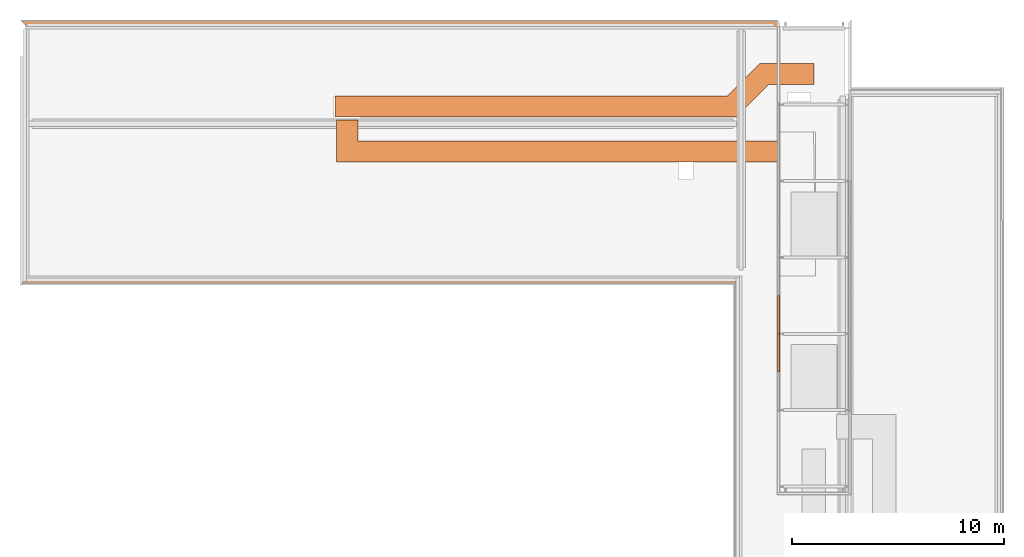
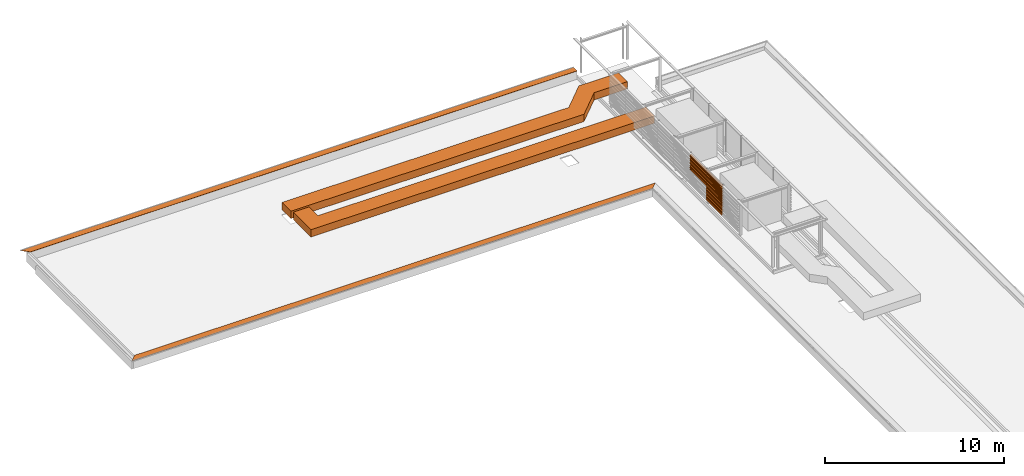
# One storey, part 23 of 32: 30 proxies.
"""IFC2X3 building model written with IfcOpenShell, lengths in millimetres."""

from ifc_helpers import new_model, entity, si_unit, converted_unit, derived_unit, direction, frame, origin, place, context, subcontext, project, spatial, polyline, outline, extrude, source, transform, mapped, material, type_object, type_shapes, element, save


model = new_model("IFC2X3")

# Units and contexts
model_context = context("Model", 3, precision=0.01, world=origin(), true_north=direction((6.123031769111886e-17, 1.0)))
body_context = subcontext(model_context, "Body", "Model", "MODEL_VIEW")
ifc_project = project(units=[si_unit("LENGTHUNIT", "METRE", prefix="MILLI"), si_unit("AREAUNIT", "SQUARE_METRE"), si_unit("VOLUMEUNIT", "CUBIC_METRE"), converted_unit("PLANEANGLEUNIT", "DEGREE", entity("IfcRatioMeasure", 0.017453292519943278), si_unit("PLANEANGLEUNIT", "RADIAN"), dimensions=[0, 0, 0, 0, 0, 0, 0]), si_unit("MASSUNIT", "GRAM", prefix="KILO"), derived_unit("MASSDENSITYUNIT", [(si_unit("MASSUNIT", "GRAM", prefix="KILO"), 1), (si_unit("LENGTHUNIT", "METRE"), -3)]), derived_unit("IONCONCENTRATIONUNIT", [(si_unit("MASSUNIT", "GRAM", prefix="KILO"), 1), (si_unit("LENGTHUNIT", "METRE"), -3)]), derived_unit("MOMENTOFINERTIAUNIT", [(si_unit("LENGTHUNIT", "METRE"), 4)]), si_unit("TIMEUNIT", "SECOND"), si_unit("FREQUENCYUNIT", "HERTZ"), si_unit("THERMODYNAMICTEMPERATUREUNIT", "DEGREE_CELSIUS"), derived_unit("THERMALTRANSMITTANCEUNIT", [(si_unit("MASSUNIT", "GRAM", prefix="KILO"), 1), (si_unit("THERMODYNAMICTEMPERATUREUNIT", "KELVIN"), -1), (si_unit("TIMEUNIT", "SECOND"), -3)]), derived_unit("THERMALCONDUCTANCEUNIT", [(si_unit("MASSUNIT", "GRAM", prefix="KILO"), 1), (si_unit("THERMODYNAMICTEMPERATUREUNIT", "KELVIN"), -1), (si_unit("TIMEUNIT", "SECOND"), -3), (si_unit("LENGTHUNIT", "METRE"), 1)]), derived_unit("VOLUMETRICFLOWRATEUNIT", [(si_unit("LENGTHUNIT", "METRE"), 3), (si_unit("TIMEUNIT", "SECOND"), -1)]), derived_unit("MASSFLOWRATEUNIT", [(si_unit("MASSUNIT", "GRAM", prefix="KILO"), 1), (si_unit("TIMEUNIT", "SECOND"), -1)]), derived_unit("ROTATIONALFREQUENCYUNIT", [(si_unit("TIMEUNIT", "SECOND"), -1)]), si_unit("ELECTRICCURRENTUNIT", "AMPERE"), si_unit("ELECTRICVOLTAGEUNIT", "VOLT"), si_unit("POWERUNIT", "WATT"), si_unit("FORCEUNIT", "NEWTON", prefix="KILO"), si_unit("ILLUMINANCEUNIT", "LUX"), si_unit("LUMINOUSFLUXUNIT", "LUMEN"), si_unit("LUMINOUSINTENSITYUNIT", "CANDELA"), derived_unit("USERDEFINED", [(si_unit("MASSUNIT", "GRAM", prefix="KILO"), -1), (si_unit("LENGTHUNIT", "METRE"), -2), (si_unit("TIMEUNIT", "SECOND"), 3), (si_unit("LUMINOUSFLUXUNIT", "LUMEN"), 1)]), derived_unit("USERDEFINED", [(si_unit("MASSUNIT", "GRAM", prefix="KILO"), 1), (si_unit("TIMEUNIT", "SECOND"), -3), (si_unit("LENGTHUNIT", "METRE"), 3), (si_unit("ELECTRICCURRENTUNIT", "AMPERE"), -2)]), derived_unit("SOUNDPOWERUNIT", [(si_unit("MASSUNIT", "GRAM", prefix="KILO"), 1), (si_unit("TIMEUNIT", "SECOND"), -3), (si_unit("LENGTHUNIT", "METRE"), 2)]), derived_unit("SOUNDPRESSUREUNIT", [(si_unit("MASSUNIT", "GRAM", prefix="KILO"), 1), (si_unit("LENGTHUNIT", "METRE"), -1), (si_unit("TIMEUNIT", "SECOND"), -2)]), derived_unit("LINEARVELOCITYUNIT", [(si_unit("LENGTHUNIT", "METRE"), 1), (si_unit("TIMEUNIT", "SECOND"), -1)]), si_unit("PRESSUREUNIT", "PASCAL"), derived_unit("USERDEFINED", [(si_unit("MASSUNIT", "GRAM", prefix="KILO"), 1), (si_unit("LENGTHUNIT", "METRE"), -2), (si_unit("TIMEUNIT", "SECOND"), -2)]), derived_unit("LINEARFORCEUNIT", [(si_unit("MASSUNIT", "GRAM", prefix="KILO"), 1), (si_unit("TIMEUNIT", "SECOND"), -2)]), derived_unit("PLANARFORCEUNIT", [(si_unit("MASSUNIT", "GRAM", prefix="KILO"), 1), (si_unit("LENGTHUNIT", "METRE"), -1), (si_unit("TIMEUNIT", "SECOND"), -2)]), derived_unit("SPECIFICHEATCAPACITYUNIT", [(si_unit("THERMODYNAMICTEMPERATUREUNIT", "KELVIN"), -1), (si_unit("LENGTHUNIT", "METRE"), 2), (si_unit("TIMEUNIT", "SECOND"), -2)]), derived_unit("HEATINGVALUEUNIT", [(si_unit("LENGTHUNIT", "METRE"), 2), (si_unit("TIMEUNIT", "SECOND"), -2)]), derived_unit("VAPORPERMEABILITYUNIT", [(si_unit("LENGTHUNIT", "METRE"), -1), (si_unit("TIMEUNIT", "SECOND"), 1)]), derived_unit("DYNAMICVISCOSITYUNIT", [(si_unit("MASSUNIT", "GRAM", prefix="KILO"), 1), (si_unit("TIMEUNIT", "SECOND"), -1), (si_unit("LENGTHUNIT", "METRE"), -1)]), derived_unit("THERMALEXPANSIONCOEFFICIENTUNIT", [(si_unit("THERMODYNAMICTEMPERATUREUNIT", "KELVIN"), -1)]), derived_unit("MODULUSOFELASTICITYUNIT", [(si_unit("MASSUNIT", "GRAM", prefix="KILO"), 1), (si_unit("LENGTHUNIT", "METRE"), -1), (si_unit("TIMEUNIT", "SECOND"), -2)]), derived_unit("ISOTHERMALMOISTURECAPACITYUNIT", [(si_unit("LENGTHUNIT", "METRE"), 3), (si_unit("MASSUNIT", "GRAM", prefix="KILO"), -1)]), derived_unit("MOISTUREDIFFUSIVITYUNIT", [(si_unit("TIMEUNIT", "SECOND"), -1), (si_unit("LENGTHUNIT", "METRE"), 2)])], contexts=[model_context])

# Site, building, storey
site_placement = place(None, frame((0.0, 300.0, 0.0)))
site = spatial("IfcSite", under=ifc_project, at=site_placement, Name="<Kadastrale nummers>", CompositionType="ELEMENT")
building_placement = place(site_placement, origin())
building = spatial("IfcBuilding", under=site, at=building_placement, CompositionType="ELEMENT")
storey_placement = place(building_placement, frame((0.0, 0.0, 7150.000035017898)))
storey = spatial("IfcBuildingStorey", under=building, at=storey_placement, Name="02 tweede verdieping", CompositionType="ELEMENT", Elevation=7150.000035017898)

# Proxies
ifc_material_1 = material(Name="ISR_Multiplex")
building_element_proxy_type_1 = type_object("IfcBuildingElementProxyType", Name="NLRS_42_GM_WBP_plaat:18x409", PredefinedType="NOTDEFINED", material=ifc_material_1)
shared_shape_1 = source(origin(), body_context, "Body", "SweptSolid", [
    extrude(outline(polyline([(-12835.225515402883, -12546.018841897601), (-12256.812168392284, -12546.018841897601), (12690.62217865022, 12401.415505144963), (12401.415505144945, 12690.622178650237), (-12835.225515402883, -12546.018841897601)])), frame((-102.2500000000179, 204.50000000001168, 0.0), z_axis=(0.0, 0.0, 1.0), x_axis=(-0.7071067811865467, 0.7071067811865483, 0.0)), (0.0, 0.0, 1.0), 18.000000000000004),
])
type_shapes(building_element_proxy_type_1, [shared_shape_1])
proxy_1_placement = place(storey_placement, frame((20470.0, 50175.0, 549.9999649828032), z_axis=(0.0, 0.0, 1.0), x_axis=(-1.0, 0.0, 0.0)))
element("IfcBuildingElementProxy", 1, at=proxy_1_placement, inside=storey, type_object=building_element_proxy_type_1, material=ifc_material_1, Name="NLRS_42_GM_WBP_plaat:18x409", ObjectType="NLRS_42_GM_WBP_plaat:18x409", context=body_context, shape_type="MappedRepresentation", body=[
    mapped(shared_shape_1, transform((0.0, 0.0, 0.0), scale=1.0)),
])
building_element_proxy_type_2 = type_object("IfcBuildingElementProxyType", Name="NLRS_42_GM_WBP_plaat:18x409", PredefinedType="NOTDEFINED", material=ifc_material_1)
shared_shape_2 = source(origin(), body_context, "Body", "SweptSolid", [
    extrude(outline(polyline([(-17004.500000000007, -204.49999999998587), (16595.50000000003, -204.49999999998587), (17004.500000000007, 204.49999999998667), (-16595.500000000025, 204.49999999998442), (-17004.500000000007, -204.49999999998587)])), frame((204.5000000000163, 204.50000000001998, 0.0)), (0.0, 0.0, 1.0), 18.000000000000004),
])
type_shapes(building_element_proxy_type_2, [shared_shape_2])
proxy_2_placement = place(storey_placement, frame((19425.0, 37725.0, 549.9999649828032)))
element("IfcBuildingElementProxy", 2, at=proxy_2_placement, inside=storey, type_object=building_element_proxy_type_2, material=ifc_material_1, Name="NLRS_42_GM_WBP_plaat:18x409", ObjectType="NLRS_42_GM_WBP_plaat:18x409", context=body_context, shape_type="MappedRepresentation", body=[
    mapped(shared_shape_2, transform((0.0, 0.0, 0.0), scale=1.0)),
])
building_element_proxy_type_3 = type_object("IfcBuildingElementProxyType", Name="6287388", PredefinedType="NOTDEFINED")
proxy_3_placement = place(storey_placement, origin())
element("IfcBuildingElementProxy", 3, at=proxy_3_placement, inside=storey, type_object=building_element_proxy_type_3, Name="6287388", context=body_context, shape_type="SweptSolid", body=[
    extrude(outline(polyline([(-49.28222207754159, 0.7930049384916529), (-66.18695254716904, -35.45930654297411), (-63.80421773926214, -35.081918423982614), (-48.008081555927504, -1.2069950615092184), (49.08917531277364, -1.2069950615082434), (66.09493969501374, 35.26198434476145), (64.28232412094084, 36.10722086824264), (47.81503479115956, 0.7930049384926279), (-49.28222207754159, 0.7930049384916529)])), frame((38367.0, 33602.500000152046, 2480.108860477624), z_axis=(0.0, -1.0, 0.0), x_axis=(0.9063077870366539, 0.0, 0.4226182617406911)), (0.0, 0.0, -1.0), 1797.4999998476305),
])
building_element_proxy_type_4 = type_object("IfcBuildingElementProxyType", Name="6287389", PredefinedType="NOTDEFINED")
proxy_4_placement = place(storey_placement, origin())
element("IfcBuildingElementProxy", 4, at=proxy_4_placement, inside=storey, type_object=building_element_proxy_type_4, Name="6287389", context=body_context, shape_type="SweptSolid", body=[
    extrude(outline(polyline([(-49.282222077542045, 0.7930049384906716), (-66.18695254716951, -35.45930654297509), (-63.80421773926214, -35.081918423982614), (-48.008081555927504, -1.2069950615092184), (49.08917531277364, -1.2069950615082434), (66.09493969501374, 35.26198434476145), (64.28232412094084, 36.10722086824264), (47.8150347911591, 0.7930049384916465), (-49.282222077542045, 0.7930049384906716)])), frame((38367.0, 33602.500000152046, 2360.108860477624), z_axis=(0.0, -1.0, 0.0), x_axis=(0.9063077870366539, 0.0, 0.4226182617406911)), (0.0, 0.0, -1.0), 1797.4999998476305),
])
building_element_proxy_type_5 = type_object("IfcBuildingElementProxyType", Name="6287390", PredefinedType="NOTDEFINED")
proxy_5_placement = place(storey_placement, origin())
element("IfcBuildingElementProxy", 5, at=proxy_5_placement, inside=storey, type_object=building_element_proxy_type_5, Name="6287390", context=body_context, shape_type="SweptSolid", body=[
    extrude(outline(polyline([(-49.282222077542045, 0.7930049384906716), (-66.18695254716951, -35.45930654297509), (-63.8042177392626, -35.081918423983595), (-48.00808155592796, -1.2069950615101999), (49.089175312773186, -1.2069950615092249), (66.09493969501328, 35.26198434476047), (64.28232412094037, 36.10722086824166), (47.8150347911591, 0.7930049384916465), (-49.282222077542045, 0.7930049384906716)])), frame((38367.0, 33602.500000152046, 2240.1088604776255), z_axis=(0.0, -1.0, 0.0), x_axis=(0.9063077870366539, 0.0, 0.4226182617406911)), (0.0, 0.0, -1.0), 1797.4999998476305),
])
building_element_proxy_type_6 = type_object("IfcBuildingElementProxyType", Name="6287391", PredefinedType="NOTDEFINED")
proxy_6_placement = place(storey_placement, origin())
element("IfcBuildingElementProxy", 6, at=proxy_6_placement, inside=storey, type_object=building_element_proxy_type_6, Name="6287391", context=body_context, shape_type="SweptSolid", body=[
    extrude(outline(polyline([(-49.2822220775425, 0.7930049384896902), (-66.18695254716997, -35.45930654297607), (-63.80421773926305, -35.081918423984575), (-48.00808155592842, -1.2069950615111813), (49.08917531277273, -1.2069950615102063), (66.09493969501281, 35.26198434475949), (64.28232412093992, 36.107220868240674), (47.815034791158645, 0.7930049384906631), (-49.2822220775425, 0.7930049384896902)])), frame((38367.0, 33602.500000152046, 2120.108860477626), z_axis=(0.0, -1.0, 0.0), x_axis=(0.9063077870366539, 0.0, 0.4226182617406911)), (0.0, 0.0, -1.0), 1797.4999998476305),
])
building_element_proxy_type_7 = type_object("IfcBuildingElementProxyType", Name="6287392", PredefinedType="NOTDEFINED")
proxy_7_placement = place(storey_placement, origin())
element("IfcBuildingElementProxy", 7, at=proxy_7_placement, inside=storey, type_object=building_element_proxy_type_7, Name="6287392", context=body_context, shape_type="SweptSolid", body=[
    extrude(outline(polyline([(-49.2822220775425, 0.7930049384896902), (-66.18695254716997, -35.45930654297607), (-63.80421773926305, -35.081918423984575), (-48.00808155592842, -1.2069950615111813), (49.08917531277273, -1.2069950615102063), (66.09493969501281, 35.26198434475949), (64.28232412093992, 36.107220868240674), (47.815034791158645, 0.7930049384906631), (-49.2822220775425, 0.7930049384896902)])), frame((38367.0, 33602.500000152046, 2000.108860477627), z_axis=(0.0, -1.0, 0.0), x_axis=(0.9063077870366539, 0.0, 0.4226182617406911)), (0.0, 0.0, -1.0), 1797.4999998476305),
])
building_element_proxy_type_8 = type_object("IfcBuildingElementProxyType", Name="6287393", PredefinedType="NOTDEFINED")
proxy_8_placement = place(storey_placement, origin())
element("IfcBuildingElementProxy", 8, at=proxy_8_placement, inside=storey, type_object=building_element_proxy_type_8, Name="6287393", context=body_context, shape_type="SweptSolid", body=[
    extrude(outline(polyline([(-49.282222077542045, 0.7930049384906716), (-66.18695254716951, -35.45930654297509), (-63.8042177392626, -35.081918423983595), (-48.00808155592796, -1.2069950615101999), (49.089175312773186, -1.2069950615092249), (66.09493969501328, 35.26198434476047), (64.28232412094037, 36.10722086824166), (47.8150347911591, 0.7930049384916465), (-49.282222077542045, 0.7930049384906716)])), frame((38367.0, 33602.500000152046, 1880.108860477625), z_axis=(0.0, -1.0, 0.0), x_axis=(0.9063077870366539, 0.0, 0.4226182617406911)), (0.0, 0.0, -1.0), 1797.4999998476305),
])
building_element_proxy_type_9 = type_object("IfcBuildingElementProxyType", Name="6287394", PredefinedType="NOTDEFINED")
proxy_9_placement = place(storey_placement, origin())
element("IfcBuildingElementProxy", 9, at=proxy_9_placement, inside=storey, type_object=building_element_proxy_type_9, Name="6287394", context=body_context, shape_type="SweptSolid", body=[
    extrude(outline(polyline([(-49.282222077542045, 0.7930049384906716), (-66.18695254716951, -35.45930654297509), (-63.80421773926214, -35.081918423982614), (-48.008081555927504, -1.2069950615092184), (49.08917531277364, -1.2069950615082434), (66.09493969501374, 35.26198434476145), (64.28232412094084, 36.10722086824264), (47.8150347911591, 0.7930049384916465), (-49.282222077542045, 0.7930049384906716)])), frame((38367.0, 33602.500000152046, 1760.1088604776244), z_axis=(0.0, -1.0, 0.0), x_axis=(0.9063077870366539, 0.0, 0.4226182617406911)), (0.0, 0.0, -1.0), 1797.4999998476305),
])
building_element_proxy_type_10 = type_object("IfcBuildingElementProxyType", Name="6287395", PredefinedType="NOTDEFINED")
proxy_10_placement = place(storey_placement, origin())
element("IfcBuildingElementProxy", 10, at=proxy_10_placement, inside=storey, type_object=building_element_proxy_type_10, Name="6287395", context=body_context, shape_type="SweptSolid", body=[
    extrude(outline(polyline([(-49.28222207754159, 0.7930049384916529), (-66.18695254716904, -35.45930654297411), (-63.80421773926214, -35.081918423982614), (-48.008081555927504, -1.2069950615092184), (49.08917531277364, -1.2069950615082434), (66.09493969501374, 35.26198434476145), (64.28232412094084, 36.10722086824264), (47.81503479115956, 0.7930049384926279), (-49.28222207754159, 0.7930049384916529)])), frame((38367.0, 33602.500000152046, 1640.1088604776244), z_axis=(0.0, -1.0, 0.0), x_axis=(0.9063077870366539, 0.0, 0.4226182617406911)), (0.0, 0.0, -1.0), 1797.4999998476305),
])
building_element_proxy_type_11 = type_object("IfcBuildingElementProxyType", Name="6287396", PredefinedType="NOTDEFINED")
proxy_11_placement = place(storey_placement, origin())
element("IfcBuildingElementProxy", 11, at=proxy_11_placement, inside=storey, type_object=building_element_proxy_type_11, Name="6287396", context=body_context, shape_type="SweptSolid", body=[
    extrude(outline(polyline([(-49.282222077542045, 0.7930049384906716), (-66.18695254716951, -35.45930654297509), (-63.80421773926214, -35.081918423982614), (-48.008081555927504, -1.2069950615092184), (49.08917531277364, -1.2069950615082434), (66.09493969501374, 35.26198434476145), (64.28232412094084, 36.10722086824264), (47.8150347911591, 0.7930049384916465), (-49.282222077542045, 0.7930049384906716)])), frame((38367.0, 33602.500000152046, 1520.1088604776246), z_axis=(0.0, -1.0, 0.0), x_axis=(0.9063077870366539, 0.0, 0.4226182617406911)), (0.0, 0.0, -1.0), 1797.4999998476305),
])
building_element_proxy_type_12 = type_object("IfcBuildingElementProxyType", Name="6287397", PredefinedType="NOTDEFINED")
proxy_12_placement = place(storey_placement, origin())
element("IfcBuildingElementProxy", 12, at=proxy_12_placement, inside=storey, type_object=building_element_proxy_type_12, Name="6287397", context=body_context, shape_type="SweptSolid", body=[
    extrude(outline(polyline([(-49.282222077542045, 0.7930049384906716), (-66.18695254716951, -35.45930654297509), (-63.8042177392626, -35.081918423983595), (-48.00808155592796, -1.2069950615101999), (49.089175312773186, -1.2069950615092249), (66.09493969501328, 35.26198434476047), (64.28232412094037, 36.10722086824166), (47.8150347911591, 0.7930049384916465), (-49.282222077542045, 0.7930049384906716)])), frame((38367.0, 33602.500000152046, 1400.108860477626), z_axis=(0.0, -1.0, 0.0), x_axis=(0.9063077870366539, 0.0, 0.4226182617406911)), (0.0, 0.0, -1.0), 1797.4999998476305),
])
building_element_proxy_type_13 = type_object("IfcBuildingElementProxyType", Name="6287398", PredefinedType="NOTDEFINED")
proxy_13_placement = place(storey_placement, origin())
element("IfcBuildingElementProxy", 13, at=proxy_13_placement, inside=storey, type_object=building_element_proxy_type_13, Name="6287398", context=body_context, shape_type="SweptSolid", body=[
    extrude(outline(polyline([(-49.2822220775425, 0.7930049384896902), (-66.18695254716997, -35.45930654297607), (-63.80421773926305, -35.081918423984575), (-48.00808155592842, -1.2069950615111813), (49.08917531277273, -1.2069950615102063), (66.09493969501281, 35.26198434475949), (64.28232412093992, 36.107220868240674), (47.815034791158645, 0.7930049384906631), (-49.2822220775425, 0.7930049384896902)])), frame((38367.0, 33602.500000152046, 1280.1088604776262), z_axis=(0.0, -1.0, 0.0), x_axis=(0.9063077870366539, 0.0, 0.4226182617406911)), (0.0, 0.0, -1.0), 1797.4999998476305),
])
building_element_proxy_type_14 = type_object("IfcBuildingElementProxyType", Name="6287399", PredefinedType="NOTDEFINED")
proxy_14_placement = place(storey_placement, origin())
element("IfcBuildingElementProxy", 14, at=proxy_14_placement, inside=storey, type_object=building_element_proxy_type_14, Name="6287399", context=body_context, shape_type="SweptSolid", body=[
    extrude(outline(polyline([(-49.2822220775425, 0.7930049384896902), (-66.18695254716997, -35.45930654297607), (-63.8042177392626, -35.081918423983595), (-48.00808155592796, -1.2069950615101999), (49.089175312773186, -1.2069950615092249), (66.09493969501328, 35.26198434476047), (64.28232412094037, 36.10722086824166), (47.815034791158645, 0.7930049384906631), (-49.2822220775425, 0.7930049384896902)])), frame((38367.0, 33602.500000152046, 1160.1088604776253), z_axis=(0.0, -1.0, 0.0), x_axis=(0.9063077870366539, 0.0, 0.4226182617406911)), (0.0, 0.0, -1.0), 1797.4999998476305),
])
building_element_proxy_type_15 = type_object("IfcBuildingElementProxyType", Name="6287400", PredefinedType="NOTDEFINED")
proxy_15_placement = place(storey_placement, origin())
element("IfcBuildingElementProxy", 15, at=proxy_15_placement, inside=storey, type_object=building_element_proxy_type_15, Name="6287400", context=body_context, shape_type="SweptSolid", body=[
    extrude(outline(polyline([(-49.282222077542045, 0.7930049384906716), (-66.18695254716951, -35.45930654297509), (-63.8042177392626, -35.081918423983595), (-48.00808155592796, -1.2069950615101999), (49.089175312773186, -1.2069950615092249), (66.09493969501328, 35.26198434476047), (64.28232412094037, 36.10722086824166), (47.8150347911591, 0.7930049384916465), (-49.282222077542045, 0.7930049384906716)])), frame((38367.0, 33602.500000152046, 1040.1088604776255), z_axis=(0.0, -1.0, 0.0), x_axis=(0.9063077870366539, 0.0, 0.4226182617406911)), (0.0, 0.0, -1.0), 1797.4999998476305),
])
building_element_proxy_type_16 = type_object("IfcBuildingElementProxyType", Name="6287401", PredefinedType="NOTDEFINED")
proxy_16_placement = place(storey_placement, origin())
element("IfcBuildingElementProxy", 16, at=proxy_16_placement, inside=storey, type_object=building_element_proxy_type_16, Name="6287401", context=body_context, shape_type="SweptSolid", body=[
    extrude(outline(polyline([(-49.282222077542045, 0.7930049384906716), (-66.18695254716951, -35.45930654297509), (-63.80421773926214, -35.081918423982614), (-48.008081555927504, -1.2069950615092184), (49.08917531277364, -1.2069950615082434), (66.09493969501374, 35.26198434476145), (64.28232412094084, 36.10722086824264), (47.8150347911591, 0.7930049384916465), (-49.282222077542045, 0.7930049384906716)])), frame((38367.0, 33602.500000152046, 920.1088604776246), z_axis=(0.0, -1.0, 0.0), x_axis=(0.9063077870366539, 0.0, 0.4226182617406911)), (0.0, 0.0, -1.0), 1797.4999998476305),
])
building_element_proxy_type_17 = type_object("IfcBuildingElementProxyType", Name="6287402", PredefinedType="NOTDEFINED")
proxy_17_placement = place(storey_placement, origin())
element("IfcBuildingElementProxy", 17, at=proxy_17_placement, inside=storey, type_object=building_element_proxy_type_17, Name="6287402", context=body_context, shape_type="SweptSolid", body=[
    extrude(outline(polyline([(-49.28222207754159, 0.7930049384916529), (-66.18695254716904, -35.45930654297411), (-63.80421773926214, -35.081918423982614), (-48.008081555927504, -1.2069950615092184), (49.08917531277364, -1.2069950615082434), (66.09493969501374, 35.26198434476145), (64.28232412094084, 36.10722086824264), (47.81503479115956, 0.7930049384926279), (-49.28222207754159, 0.7930049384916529)])), frame((38367.0, 33602.500000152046, 800.1088604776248), z_axis=(0.0, -1.0, 0.0), x_axis=(0.9063077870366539, 0.0, 0.4226182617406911)), (0.0, 0.0, -1.0), 1797.4999998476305),
])
building_element_proxy_type_18 = type_object("IfcBuildingElementProxyType", Name="6287403", PredefinedType="NOTDEFINED")
proxy_18_placement = place(storey_placement, origin())
element("IfcBuildingElementProxy", 18, at=proxy_18_placement, inside=storey, type_object=building_element_proxy_type_18, Name="6287403", context=body_context, shape_type="SweptSolid", body=[
    extrude(outline(polyline([(-49.282222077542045, 0.7930049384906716), (-66.18695254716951, -35.45930654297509), (-63.8042177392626, -35.081918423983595), (-48.00808155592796, -1.2069950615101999), (49.089175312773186, -1.2069950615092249), (66.09493969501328, 35.26198434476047), (64.28232412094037, 36.10722086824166), (47.8150347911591, 0.7930049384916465), (-49.282222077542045, 0.7930049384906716)])), frame((38367.0, 33602.500000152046, 680.1088604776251), z_axis=(0.0, -1.0, 0.0), x_axis=(0.9063077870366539, 0.0, 0.4226182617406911)), (0.0, 0.0, -1.0), 1797.4999998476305),
])
building_element_proxy_type_19 = type_object("IfcBuildingElementProxyType", Name="6287404", PredefinedType="NOTDEFINED")
proxy_19_placement = place(storey_placement, origin())
element("IfcBuildingElementProxy", 19, at=proxy_19_placement, inside=storey, type_object=building_element_proxy_type_19, Name="6287404", context=body_context, shape_type="SweptSolid", body=[
    extrude(outline(polyline([(-49.2822220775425, 0.7930049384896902), (-66.18695254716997, -35.45930654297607), (-63.8042177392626, -35.081918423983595), (-48.00808155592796, -1.2069950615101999), (49.089175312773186, -1.2069950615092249), (66.09493969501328, 35.26198434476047), (64.28232412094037, 36.10722086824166), (47.815034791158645, 0.7930049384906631), (-49.2822220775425, 0.7930049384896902)])), frame((38367.0, 33602.500000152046, 560.1088604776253), z_axis=(0.0, -1.0, 0.0), x_axis=(0.9063077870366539, 0.0, 0.4226182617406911)), (0.0, 0.0, -1.0), 1797.4999998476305),
])
building_element_proxy_type_20 = type_object("IfcBuildingElementProxyType", Name="6287490", PredefinedType="NOTDEFINED")
proxy_20_placement = place(storey_placement, origin())
element("IfcBuildingElementProxy", 20, at=proxy_20_placement, inside=storey, type_object=building_element_proxy_type_20, Name="6287490", context=body_context, shape_type="SweptSolid", body=[
    extrude(outline(polyline([(-49.28222207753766, 0.7930049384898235), (-66.18695254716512, -35.459306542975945), (-63.80421773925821, -35.08191842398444), (-48.00808155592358, -1.206995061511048), (49.08917531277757, -1.2069950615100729), (66.09493969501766, 35.26198434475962), (64.28232412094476, 36.107220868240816), (47.815034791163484, 0.7930049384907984), (-49.28222207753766, 0.7930049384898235)])), frame((38367.0, 35400.0, 2480.108860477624), z_axis=(0.0, -1.0, 0.0), x_axis=(0.9063077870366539, 0.0, 0.4226182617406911)), (0.0, 0.0, -1.0), 1797.4999998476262),
])
building_element_proxy_type_21 = type_object("IfcBuildingElementProxyType", Name="6287491", PredefinedType="NOTDEFINED")
proxy_21_placement = place(storey_placement, origin())
element("IfcBuildingElementProxy", 21, at=proxy_21_placement, inside=storey, type_object=building_element_proxy_type_21, Name="6287491", context=body_context, shape_type="SweptSolid", body=[
    extrude(outline(polyline([(-49.282222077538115, 0.7930049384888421), (-66.18695254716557, -35.459306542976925), (-63.80421773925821, -35.08191842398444), (-48.00808155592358, -1.206995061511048), (49.08917531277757, -1.2069950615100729), (66.09493969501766, 35.26198434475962), (64.28232412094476, 36.107220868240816), (47.81503479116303, 0.7930049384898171), (-49.282222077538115, 0.7930049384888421)])), frame((38367.0, 35400.0, 2360.108860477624), z_axis=(0.0, -1.0, 0.0), x_axis=(0.9063077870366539, 0.0, 0.4226182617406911)), (0.0, 0.0, -1.0), 1797.4999998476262),
])
building_element_proxy_type_22 = type_object("IfcBuildingElementProxyType", Name="6287492", PredefinedType="NOTDEFINED")
proxy_22_placement = place(storey_placement, origin())
element("IfcBuildingElementProxy", 22, at=proxy_22_placement, inside=storey, type_object=building_element_proxy_type_22, Name="6287492", context=body_context, shape_type="SweptSolid", body=[
    extrude(outline(polyline([(-49.282222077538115, 0.7930049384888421), (-66.18695254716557, -35.459306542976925), (-63.804217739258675, -35.08191842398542), (-48.008081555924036, -1.2069950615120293), (49.08917531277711, -1.2069950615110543), (66.0949396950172, 35.26198434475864), (64.28232412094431, 36.10722086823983), (47.81503479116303, 0.7930049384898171), (-49.282222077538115, 0.7930049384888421)])), frame((38367.0, 35400.0, 2240.1088604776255), z_axis=(0.0, -1.0, 0.0), x_axis=(0.9063077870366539, 0.0, 0.4226182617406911)), (0.0, 0.0, -1.0), 1797.4999998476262),
])
building_element_proxy_type_23 = type_object("IfcBuildingElementProxyType", Name="6287493", PredefinedType="NOTDEFINED")
proxy_23_placement = place(storey_placement, origin())
element("IfcBuildingElementProxy", 23, at=proxy_23_placement, inside=storey, type_object=building_element_proxy_type_23, Name="6287493", context=body_context, shape_type="SweptSolid", body=[
    extrude(outline(polyline([(-49.28222207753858, 0.7930049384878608), (-66.18695254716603, -35.459306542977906), (-63.80421773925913, -35.08191842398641), (-48.00808155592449, -1.2069950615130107), (49.08917531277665, -1.2069950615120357), (66.09493969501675, 35.26198434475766), (64.28232412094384, 36.10722086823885), (47.815034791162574, 0.7930049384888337), (-49.28222207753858, 0.7930049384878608)])), frame((38367.0, 35400.0, 2120.108860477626), z_axis=(0.0, -1.0, 0.0), x_axis=(0.9063077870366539, 0.0, 0.4226182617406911)), (0.0, 0.0, -1.0), 1797.4999998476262),
])
building_element_proxy_type_24 = type_object("IfcBuildingElementProxyType", Name="6287494", PredefinedType="NOTDEFINED")
proxy_24_placement = place(storey_placement, origin())
element("IfcBuildingElementProxy", 24, at=proxy_24_placement, inside=storey, type_object=building_element_proxy_type_24, Name="6287494", context=body_context, shape_type="SweptSolid", body=[
    extrude(outline(polyline([(-49.28222207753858, 0.7930049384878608), (-66.18695254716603, -35.459306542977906), (-63.80421773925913, -35.08191842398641), (-48.00808155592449, -1.2069950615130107), (49.08917531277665, -1.2069950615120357), (66.09493969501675, 35.26198434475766), (64.28232412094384, 36.10722086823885), (47.815034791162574, 0.7930049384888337), (-49.28222207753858, 0.7930049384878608)])), frame((38367.0, 35400.0, 2000.108860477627), z_axis=(0.0, -1.0, 0.0), x_axis=(0.9063077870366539, 0.0, 0.4226182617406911)), (0.0, 0.0, -1.0), 1797.4999998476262),
])
building_element_proxy_type_25 = type_object("IfcBuildingElementProxyType", Name="6287495", PredefinedType="NOTDEFINED")
proxy_25_placement = place(storey_placement, origin())
element("IfcBuildingElementProxy", 25, at=proxy_25_placement, inside=storey, type_object=building_element_proxy_type_25, Name="6287495", context=body_context, shape_type="SweptSolid", body=[
    extrude(outline(polyline([(-49.282222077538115, 0.7930049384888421), (-66.18695254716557, -35.459306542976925), (-63.804217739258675, -35.08191842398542), (-48.008081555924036, -1.2069950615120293), (49.08917531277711, -1.2069950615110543), (66.0949396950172, 35.26198434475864), (64.28232412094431, 36.10722086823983), (47.81503479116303, 0.7930049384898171), (-49.282222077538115, 0.7930049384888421)])), frame((38367.0, 35400.0, 1880.108860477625), z_axis=(0.0, -1.0, 0.0), x_axis=(0.9063077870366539, 0.0, 0.4226182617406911)), (0.0, 0.0, -1.0), 1797.4999998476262),
])
building_element_proxy_type_26 = type_object("IfcBuildingElementProxyType", Name="6287496", PredefinedType="NOTDEFINED")
proxy_26_placement = place(storey_placement, origin())
element("IfcBuildingElementProxy", 26, at=proxy_26_placement, inside=storey, type_object=building_element_proxy_type_26, Name="6287496", context=body_context, shape_type="SweptSolid", body=[
    extrude(outline(polyline([(-49.282222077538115, 0.7930049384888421), (-66.18695254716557, -35.459306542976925), (-63.80421773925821, -35.08191842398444), (-48.00808155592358, -1.206995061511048), (49.08917531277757, -1.2069950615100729), (66.09493969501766, 35.26198434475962), (64.28232412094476, 36.107220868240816), (47.81503479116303, 0.7930049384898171), (-49.282222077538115, 0.7930049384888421)])), frame((38367.0, 35400.0, 1760.1088604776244), z_axis=(0.0, -1.0, 0.0), x_axis=(0.9063077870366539, 0.0, 0.4226182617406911)), (0.0, 0.0, -1.0), 1797.4999998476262),
])
building_element_proxy_type_27 = type_object("IfcBuildingElementProxyType", Name="6287497", PredefinedType="NOTDEFINED")
proxy_27_placement = place(storey_placement, origin())
element("IfcBuildingElementProxy", 27, at=proxy_27_placement, inside=storey, type_object=building_element_proxy_type_27, Name="6287497", context=body_context, shape_type="SweptSolid", body=[
    extrude(outline(polyline([(-49.28222207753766, 0.7930049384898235), (-66.18695254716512, -35.459306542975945), (-63.80421773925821, -35.08191842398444), (-48.00808155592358, -1.206995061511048), (49.08917531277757, -1.2069950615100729), (66.09493969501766, 35.26198434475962), (64.28232412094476, 36.107220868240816), (47.815034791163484, 0.7930049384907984), (-49.28222207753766, 0.7930049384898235)])), frame((38367.0, 35400.0, 1640.1088604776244), z_axis=(0.0, -1.0, 0.0), x_axis=(0.9063077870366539, 0.0, 0.4226182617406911)), (0.0, 0.0, -1.0), 1797.4999998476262),
])
building_element_proxy_type_28 = type_object("IfcBuildingElementProxyType", Name="6287498", PredefinedType="NOTDEFINED")
proxy_28_placement = place(storey_placement, origin())
element("IfcBuildingElementProxy", 28, at=proxy_28_placement, inside=storey, type_object=building_element_proxy_type_28, Name="6287498", context=body_context, shape_type="SweptSolid", body=[
    extrude(outline(polyline([(-49.282222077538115, 0.7930049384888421), (-66.18695254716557, -35.459306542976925), (-63.80421773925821, -35.08191842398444), (-48.00808155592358, -1.206995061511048), (49.08917531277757, -1.2069950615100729), (66.09493969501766, 35.26198434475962), (64.28232412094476, 36.107220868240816), (47.81503479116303, 0.7930049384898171), (-49.282222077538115, 0.7930049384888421)])), frame((38367.0, 35400.0, 1520.1088604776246), z_axis=(0.0, -1.0, 0.0), x_axis=(0.9063077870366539, 0.0, 0.4226182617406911)), (0.0, 0.0, -1.0), 1797.4999998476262),
])
ifc_material_2 = material(Name="<Unnamed>")
building_element_proxy_type_29 = type_object("IfcBuildingElementProxyType", Name="Mechanical Equipment 1:Mechanical Equipment 1", PredefinedType="NOTDEFINED", material=ifc_material_2)
shared_shape_3 = source(origin(), body_context, "Body", "SweptSolid", [
    extrude(outline(polyline([(-3113.7818333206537, 268.40031078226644), (15386.218166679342, 268.40031078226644), (15386.21816667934, 1268.4003107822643), (-3527.995395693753, 1268.400310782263), (-5064.79601725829, -268.4003107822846), (-7207.640316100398, -268.40031078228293), (-7207.640316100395, -1268.4003107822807), (-4650.582454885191, -1268.400310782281), (-3113.7818333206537, 268.40031078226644)])), frame((32837.35968389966, 46883.227963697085, 7462.290144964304), z_axis=(0.0, 0.0, 1.0), x_axis=(-1.0, 0.0, 0.0)), (0.0, 0.0, 1.0), 500.00000000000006),
])
type_shapes(building_element_proxy_type_29, [shared_shape_3])
proxy_29_placement = place(storey_placement, frame((0.0, 0.0, -7150.000035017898)))
element("IfcBuildingElementProxy", 29, at=proxy_29_placement, inside=storey, type_object=building_element_proxy_type_29, material=ifc_material_2, Name="Mechanical Equipment 1:Mechanical Equipment 1", ObjectType="Mechanical Equipment 1:Mechanical Equipment 1", context=body_context, shape_type="MappedRepresentation", body=[
    mapped(shared_shape_3, transform((0.0, 0.0, 0.0), scale=1.0)),
])
building_element_proxy_type_30 = type_object("IfcBuildingElementProxyType", Name="Mechanical Equipment 2:Mechanical Equipment 1", PredefinedType="NOTDEFINED", material=ifc_material_2)
shared_shape_4 = source(origin(), body_context, "Body", "SweptSolid", [
    extrude(outline(polyline([(-14444.777470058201, 6.334415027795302), (-14444.777470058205, -993.665584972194), (7729.22252994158, -993.6655849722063), (7729.222529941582, 987.331169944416), (6715.55494011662, 987.3311699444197), (6715.554940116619, 6.334415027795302), (-14444.777470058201, 6.334415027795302)])), frame((25249.222529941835, 44488.49323788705, 7462.290144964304), z_axis=(0.0, 0.0, -1.0), x_axis=(-1.0, 0.0, 0.0)), (0.0, 0.0, -1.0), 500.00000000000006),
])
type_shapes(building_element_proxy_type_30, [shared_shape_4])
proxy_30_placement = place(storey_placement, frame((0.0, 0.0, -7150.000035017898)))
element("IfcBuildingElementProxy", 30, at=proxy_30_placement, inside=storey, type_object=building_element_proxy_type_30, material=ifc_material_2, Name="Mechanical Equipment 2:Mechanical Equipment 1", ObjectType="Mechanical Equipment 2:Mechanical Equipment 1", context=body_context, shape_type="MappedRepresentation", body=[
    mapped(shared_shape_4, transform((0.0, 0.0, 0.0), scale=1.0)),
])

save(model, "model.ifc")
